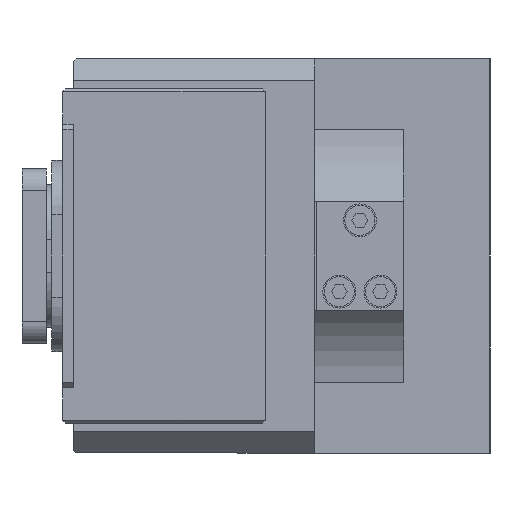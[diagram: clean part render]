
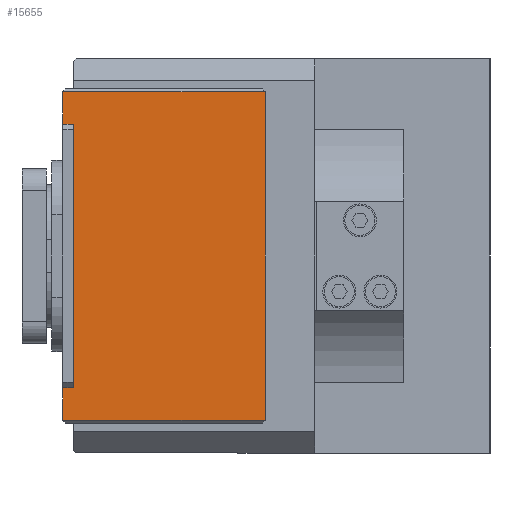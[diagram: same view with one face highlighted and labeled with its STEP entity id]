
A CAD part, left-side view. The second image highlights one B-rep face of the part: STEP entity #15655.
In plain terms, the highlighted planar face has unit normal (-1, 0, 0).
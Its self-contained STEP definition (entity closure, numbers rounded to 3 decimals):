
#700 = EDGE_CURVE ( 'NONE', #8675, #21971, #13301, .T. ) ;
#921 = ORIENTED_EDGE ( 'NONE', *, *, #700, .F. ) ;
#1566 = EDGE_CURVE ( 'NONE', #9663, #19284, #2798, .T. ) ;
#1722 = CARTESIAN_POINT ( 'NONE',  ( -103., 30., 41. ) ) ;
#2099 = DIRECTION ( 'NONE',  ( 1., 0., 0. ) ) ;
#2798 = LINE ( 'NONE', #18649, #21791 ) ;
#3027 = VERTEX_POINT ( 'NONE', #17243 ) ;
#3110 = CARTESIAN_POINT ( 'NONE',  ( -103., 30., 41. ) ) ;
#3296 = VERTEX_POINT ( 'NONE', #1722 ) ;
#3314 = VECTOR ( 'NONE', #4911, 1000. ) ;
#3399 = LINE ( 'NONE', #20115, #21794 ) ;
#4473 = DIRECTION ( 'NONE',  ( 0., -1., 0. ) ) ;
#4911 = DIRECTION ( 'NONE',  ( 0., 0., 1. ) ) ;
#5962 = VECTOR ( 'NONE', #6480, 1000. ) ;
#6171 = EDGE_CURVE ( 'NONE', #3027, #8675, #14310, .T. ) ;
#6480 = DIRECTION ( 'NONE',  ( 0., 0., 1. ) ) ;
#7126 = ORIENTED_EDGE ( 'NONE', *, *, #1566, .F. ) ;
#7144 = LINE ( 'NONE', #13484, #16626 ) ;
#7429 = PLANE ( 'NONE',  #20086 ) ;
#8448 = CARTESIAN_POINT ( 'NONE',  ( -103., -30., 78. ) ) ;
#8471 = FACE_OUTER_BOUND ( 'NONE', #18304, .T. ) ;
#8549 = VECTOR ( 'NONE', #17153, 1000. ) ;
#8675 = VERTEX_POINT ( 'NONE', #17086 ) ;
#8729 = DIRECTION ( 'NONE',  ( 0., 0., -1. ) ) ;
#8960 = CARTESIAN_POINT ( 'NONE',  ( -103., 0., 78. ) ) ;
#9008 = CARTESIAN_POINT ( 'NONE',  ( -103., -30., 41. ) ) ;
#9112 = CARTESIAN_POINT ( 'NONE',  ( -103., 24.05, 75.95 ) ) ;
#9391 = EDGE_CURVE ( 'NONE', #21971, #17835, #10814, .T. ) ;
#9541 = DIRECTION ( 'NONE',  ( 0., -1., 0. ) ) ;
#9663 = VERTEX_POINT ( 'NONE', #8448 ) ;
#9840 = ORIENTED_EDGE ( 'NONE', *, *, #9391, .F. ) ;
#10008 = EDGE_CURVE ( 'NONE', #16220, #3027, #3399, .T. ) ;
#10256 = LINE ( 'NONE', #8960, #14985 ) ;
#10814 = LINE ( 'NONE', #20711, #5962 ) ;
#11452 = EDGE_CURVE ( 'NONE', #3296, #16220, #21712, .T. ) ;
#12249 = CARTESIAN_POINT ( 'NONE',  ( -103., -24.05, 76. ) ) ;
#12819 = CARTESIAN_POINT ( 'NONE',  ( -103., 30., 78. ) ) ;
#12931 = CARTESIAN_POINT ( 'NONE',  ( -103., 0., 76. ) ) ;
#13301 = LINE ( 'NONE', #17339, #8549 ) ;
#13484 = CARTESIAN_POINT ( 'NONE',  ( -103., 0., 41. ) ) ;
#14310 = LINE ( 'NONE', #9112, #17333 ) ;
#14434 = ORIENTED_EDGE ( 'NONE', *, *, #22965, .T. ) ;
#14695 = DIRECTION ( 'NONE',  ( 0., 0., -1. ) ) ;
#14985 = VECTOR ( 'NONE', #19549, 1000. ) ;
#15655 = ADVANCED_FACE ( 'NONE', ( #8471 ), #7429, .F. ) ;
#16118 = ORIENTED_EDGE ( 'NONE', *, *, #10008, .F. ) ;
#16220 = VERTEX_POINT ( 'NONE', #12819 ) ;
#16255 = ORIENTED_EDGE ( 'NONE', *, *, #11452, .F. ) ;
#16626 = VECTOR ( 'NONE', #4473, 1000. ) ;
#17086 = CARTESIAN_POINT ( 'NONE',  ( -103., 24.05, 76. ) ) ;
#17153 = DIRECTION ( 'NONE',  ( 0., -1., 0. ) ) ;
#17243 = CARTESIAN_POINT ( 'NONE',  ( -103., 24.05, 78. ) ) ;
#17333 = VECTOR ( 'NONE', #8729, 1000. ) ;
#17339 = CARTESIAN_POINT ( 'NONE',  ( -103., -24.05, 76. ) ) ;
#17835 = VERTEX_POINT ( 'NONE', #18573 ) ;
#18304 = EDGE_LOOP ( 'NONE', ( #7126, #18378, #9840, #921, #19564, #16118, #16255, #14434 ) ) ;
#18378 = ORIENTED_EDGE ( 'NONE', *, *, #22743, .F. ) ;
#18573 = CARTESIAN_POINT ( 'NONE',  ( -103., -24.05, 78. ) ) ;
#18649 = CARTESIAN_POINT ( 'NONE',  ( -103., -30., 76. ) ) ;
#19284 = VERTEX_POINT ( 'NONE', #9008 ) ;
#19549 = DIRECTION ( 'NONE',  ( 0., -1., 0. ) ) ;
#19564 = ORIENTED_EDGE ( 'NONE', *, *, #6171, .F. ) ;
#19705 = DIRECTION ( 'NONE',  ( 0., 0., -1. ) ) ;
#20086 = AXIS2_PLACEMENT_3D ( 'NONE', #12931, #2099, #14695 ) ;
#20115 = CARTESIAN_POINT ( 'NONE',  ( -103., 0., 78. ) ) ;
#20711 = CARTESIAN_POINT ( 'NONE',  ( -103., -24.05, 78. ) ) ;
#21712 = LINE ( 'NONE', #3110, #3314 ) ;
#21791 = VECTOR ( 'NONE', #19705, 1000. ) ;
#21794 = VECTOR ( 'NONE', #9541, 1000. ) ;
#21971 = VERTEX_POINT ( 'NONE', #12249 ) ;
#22743 = EDGE_CURVE ( 'NONE', #17835, #9663, #10256, .T. ) ;
#22965 = EDGE_CURVE ( 'NONE', #3296, #19284, #7144, .T. ) ;
